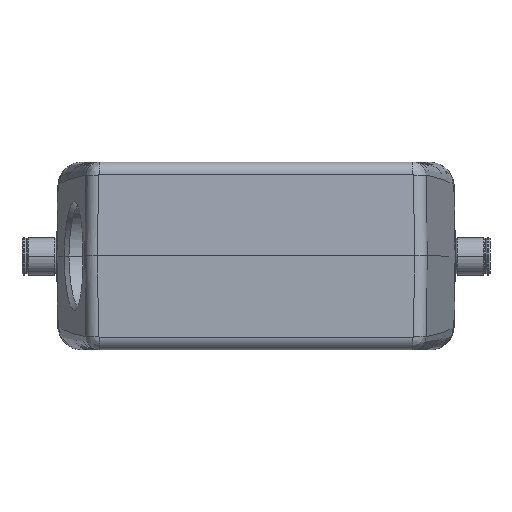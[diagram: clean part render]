
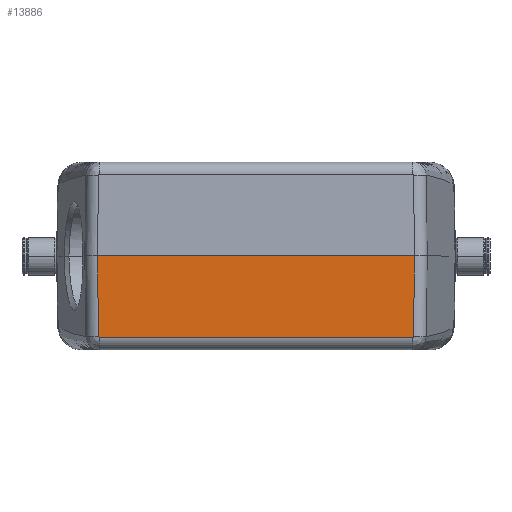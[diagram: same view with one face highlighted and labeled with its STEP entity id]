
A CAD part, top view. The second image highlights one B-rep face of the part: STEP entity #13886.
In plain terms, the highlighted planar face has unit normal (0, -0.018, 1).
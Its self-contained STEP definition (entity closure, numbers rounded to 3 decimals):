
#48 = EDGE_CURVE ( 'NONE', #17213, #15522, #18340, .T. ) ;
#459 = DIRECTION ( 'NONE',  ( 1., 0., 0. ) ) ;
#622 = EDGE_CURVE ( 'NONE', #766, #15522, #2389, .T. ) ;
#766 = VERTEX_POINT ( 'NONE', #13233 ) ;
#1350 = CARTESIAN_POINT ( 'NONE',  ( 36.765, -19.052, 59.667 ) ) ;
#1529 = EDGE_CURVE ( 'NONE', #3042, #11800, #2259, .T. ) ;
#1838 = CARTESIAN_POINT ( 'NONE',  ( 37.088, -6.306, 59.89 ) ) ;
#1976 = FACE_OUTER_BOUND ( 'NONE', #20793, .T. ) ;
#2193 = CARTESIAN_POINT ( 'NONE',  ( -66.197, 0., 60. ) ) ;
#2259 = LINE ( 'NONE', #13275, #19082 ) ;
#2389 = B_SPLINE_CURVE_WITH_KNOTS ( 'NONE', 3,
 ( #19026, #9280, #6122, #14178 ),
 .UNSPECIFIED., .F., .F.,
 ( 4, 4 ),
 ( 0., 1. ),
 .UNSPECIFIED. ) ;
#3042 = VERTEX_POINT ( 'NONE', #6594 ) ;
#3308 = VECTOR ( 'NONE', #13910, 1000. ) ;
#3601 = ORIENTED_EDGE ( 'NONE', *, *, #622, .F. ) ;
#4908 = CARTESIAN_POINT ( 'NONE',  ( 36.902, -18.955, 59.669 ) ) ;
#5923 = CARTESIAN_POINT ( 'NONE',  ( -36.889, -18.99, 59.669 ) ) ;
#6122 = CARTESIAN_POINT ( 'NONE',  ( -37.088, -6.308, 59.89 ) ) ;
#6124 = CARTESIAN_POINT ( 'NONE',  ( -36.771, -19.052, 59.667 ) ) ;
#6146 = B_SPLINE_CURVE_WITH_KNOTS ( 'NONE', 3,
 ( #1350, #20970, #19434, #9630, #4908, #12755 ),
 .UNSPECIFIED., .F., .F.,
 ( 4, 2, 4 ),
 ( 0., 0.5, 1. ),
 .UNSPECIFIED. ) ;
#6594 = CARTESIAN_POINT ( 'NONE',  ( -36.771, -19.052, 59.667 ) ) ;
#6935 = CARTESIAN_POINT ( 'NONE',  ( -66.197, 0., 60. ) ) ;
#8757 = EDGE_CURVE ( 'NONE', #11800, #11979, #6146, .T. ) ;
#9280 = CARTESIAN_POINT ( 'NONE',  ( -36.995, -12.616, 59.78 ) ) ;
#9285 = CARTESIAN_POINT ( 'NONE',  ( -36.838, -19.04, 59.668 ) ) ;
#9630 = CARTESIAN_POINT ( 'NONE',  ( 36.888, -18.987, 59.669 ) ) ;
#10107 = CARTESIAN_POINT ( 'NONE',  ( 36.995, -12.611, 59.78 ) ) ;
#10135 = B_SPLINE_CURVE_WITH_KNOTS ( 'NONE', 3,
 ( #19720, #1838, #10107, #14795 ),
 .UNSPECIFIED., .F., .F.,
 ( 4, 4 ),
 ( 0., 1. ),
 .UNSPECIFIED. ) ;
#10310 = PLANE ( 'NONE',  #10718 ) ;
#10389 = DIRECTION ( 'NONE',  ( 0., -1., -0.017 ) ) ;
#10577 = CARTESIAN_POINT ( 'NONE',  ( -37.18, 0., 60. ) ) ;
#10718 = AXIS2_PLACEMENT_3D ( 'NONE', #2193, #20156, #10389 ) ;
#11742 = EDGE_CURVE ( 'NONE', #17213, #11979, #10135, .T. ) ;
#11800 = VERTEX_POINT ( 'NONE', #16539 ) ;
#11979 = VERTEX_POINT ( 'NONE', #12682 ) ;
#12682 = CARTESIAN_POINT ( 'NONE',  ( 36.903, -18.917, 59.67 ) ) ;
#12755 = CARTESIAN_POINT ( 'NONE',  ( 36.903, -18.917, 59.67 ) ) ;
#13233 = CARTESIAN_POINT ( 'NONE',  ( -36.903, -18.923, 59.67 ) ) ;
#13275 = CARTESIAN_POINT ( 'NONE',  ( -66.197, -19.052, 59.667 ) ) ;
#13463 = EDGE_CURVE ( 'NONE', #766, #3042, #19955, .T. ) ;
#13886 = ADVANCED_FACE ( 'NONE', ( #1976 ), #10310, .T. ) ;
#13910 = DIRECTION ( 'NONE',  ( -1., 0., 0. ) ) ;
#14110 = CARTESIAN_POINT ( 'NONE',  ( -36.903, -18.923, 59.67 ) ) ;
#14178 = CARTESIAN_POINT ( 'NONE',  ( -37.18, 0., 60. ) ) ;
#14795 = CARTESIAN_POINT ( 'NONE',  ( 36.903, -18.917, 59.67 ) ) ;
#14916 = ORIENTED_EDGE ( 'NONE', *, *, #8757, .T. ) ;
#15522 = VERTEX_POINT ( 'NONE', #10577 ) ;
#16539 = CARTESIAN_POINT ( 'NONE',  ( 36.765, -19.052, 59.667 ) ) ;
#17213 = VERTEX_POINT ( 'NONE', #18376 ) ;
#17665 = ORIENTED_EDGE ( 'NONE', *, *, #13463, .T. ) ;
#18340 = LINE ( 'NONE', #6935, #3308 ) ;
#18376 = CARTESIAN_POINT ( 'NONE',  ( 37.18, 0., 60. ) ) ;
#18474 = ORIENTED_EDGE ( 'NONE', *, *, #48, .T. ) ;
#19026 = CARTESIAN_POINT ( 'NONE',  ( -36.903, -18.923, 59.67 ) ) ;
#19082 = VECTOR ( 'NONE', #459, 1000. ) ;
#19097 = CARTESIAN_POINT ( 'NONE',  ( -36.902, -18.959, 59.669 ) ) ;
#19121 = ORIENTED_EDGE ( 'NONE', *, *, #1529, .T. ) ;
#19254 = ORIENTED_EDGE ( 'NONE', *, *, #11742, .F. ) ;
#19434 = CARTESIAN_POINT ( 'NONE',  ( 36.835, -19.039, 59.668 ) ) ;
#19720 = CARTESIAN_POINT ( 'NONE',  ( 37.18, 0., 60. ) ) ;
#19955 = B_SPLINE_CURVE_WITH_KNOTS ( 'NONE', 3,
 ( #14110, #19097, #5923, #9285, #20766, #6124 ),
 .UNSPECIFIED., .F., .F.,
 ( 4, 2, 4 ),
 ( 0., 0.5, 1. ),
 .UNSPECIFIED. ) ;
#20156 = DIRECTION ( 'NONE',  ( 0., -0.017, 1. ) ) ;
#20766 = CARTESIAN_POINT ( 'NONE',  ( -36.807, -19.052, 59.667 ) ) ;
#20793 = EDGE_LOOP ( 'NONE', ( #19254, #18474, #3601, #17665, #19121, #14916 ) ) ;
#20970 = CARTESIAN_POINT ( 'NONE',  ( 36.802, -19.052, 59.667 ) ) ;
